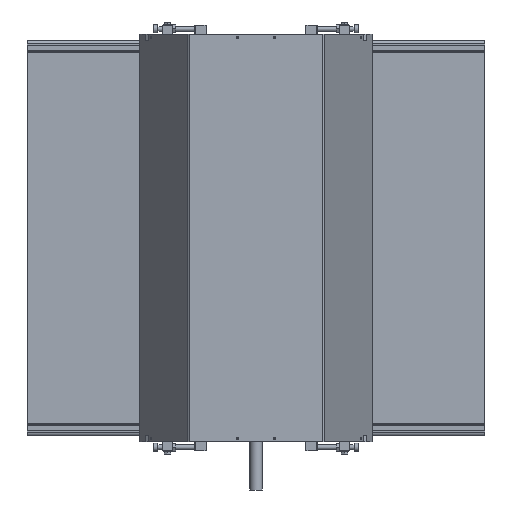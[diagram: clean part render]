
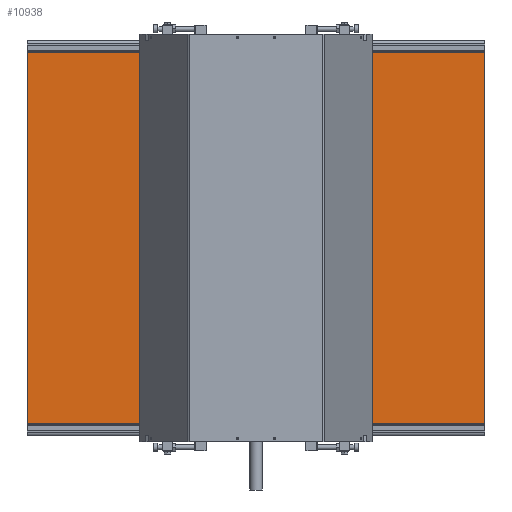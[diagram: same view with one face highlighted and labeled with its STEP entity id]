
A CAD part, front view. The second image highlights one B-rep face of the part: STEP entity #10938.
In plain terms, the highlighted planar face has unit normal (0, -1, 0).
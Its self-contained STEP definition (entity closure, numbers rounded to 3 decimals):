
#473 = EDGE_CURVE ( 'NONE', #2597, #21261, #16538, .T. ) ;
#1881 = DIRECTION ( 'NONE',  ( 0., 1., 0. ) ) ;
#2368 = CARTESIAN_POINT ( 'NONE',  ( -375., -76.7, -303.8 ) ) ;
#2597 = VERTEX_POINT ( 'NONE', #20398 ) ;
#4164 = EDGE_LOOP ( 'NONE', ( #14052, #5427, #10813, #23074 ) ) ;
#4244 = VERTEX_POINT ( 'NONE', #15408 ) ;
#4336 = CARTESIAN_POINT ( 'NONE',  ( 375., -76.7, -303.8 ) ) ;
#4507 = LINE ( 'NONE', #20617, #18765 ) ;
#5156 = AXIS2_PLACEMENT_3D ( 'NONE', #14413, #1881, #11061 ) ;
#5354 = VECTOR ( 'NONE', #19047, 1000. ) ;
#5403 = EDGE_CURVE ( 'NONE', #7522, #4244, #19092, .T. ) ;
#5427 = ORIENTED_EDGE ( 'NONE', *, *, #8163, .F. ) ;
#6091 = DIRECTION ( 'NONE',  ( 0., 0., -1. ) ) ;
#6356 = CARTESIAN_POINT ( 'NONE',  ( -375., -76.7, -303.8 ) ) ;
#7522 = VERTEX_POINT ( 'NONE', #17870 ) ;
#8163 = EDGE_CURVE ( 'NONE', #4244, #21261, #22700, .T. ) ;
#9971 = VECTOR ( 'NONE', #6091, 1000. ) ;
#10813 = ORIENTED_EDGE ( 'NONE', *, *, #5403, .F. ) ;
#10938 = ADVANCED_FACE ( 'NONE', ( #13587 ), #11138, .F. ) ;
#11061 = DIRECTION ( 'NONE',  ( 0., 0., 1. ) ) ;
#11138 = PLANE ( 'NONE',  #5156 ) ;
#13187 = EDGE_CURVE ( 'NONE', #7522, #2597, #4507, .T. ) ;
#13587 = FACE_OUTER_BOUND ( 'NONE', #4164, .T. ) ;
#13672 = CARTESIAN_POINT ( 'NONE',  ( 375., -76.7, -303.8 ) ) ;
#14052 = ORIENTED_EDGE ( 'NONE', *, *, #473, .T. ) ;
#14413 = CARTESIAN_POINT ( 'NONE',  ( 375., -76.7, -303.8 ) ) ;
#15408 = CARTESIAN_POINT ( 'NONE',  ( 375., -76.7, -303.8 ) ) ;
#16538 = LINE ( 'NONE', #2368, #9971 ) ;
#16904 = DIRECTION ( 'NONE',  ( -1., 0., 0. ) ) ;
#17814 = VECTOR ( 'NONE', #16904, 1000. ) ;
#17870 = CARTESIAN_POINT ( 'NONE',  ( 375., -76.7, 303.8 ) ) ;
#18765 = VECTOR ( 'NONE', #22447, 1000. ) ;
#19047 = DIRECTION ( 'NONE',  ( 0., 0., -1. ) ) ;
#19092 = LINE ( 'NONE', #13672, #5354 ) ;
#20398 = CARTESIAN_POINT ( 'NONE',  ( -375., -76.7, 303.8 ) ) ;
#20617 = CARTESIAN_POINT ( 'NONE',  ( 375., -76.7, 303.8 ) ) ;
#21261 = VERTEX_POINT ( 'NONE', #6356 ) ;
#22447 = DIRECTION ( 'NONE',  ( -1., 0., 0. ) ) ;
#22700 = LINE ( 'NONE', #4336, #17814 ) ;
#23074 = ORIENTED_EDGE ( 'NONE', *, *, #13187, .T. ) ;
